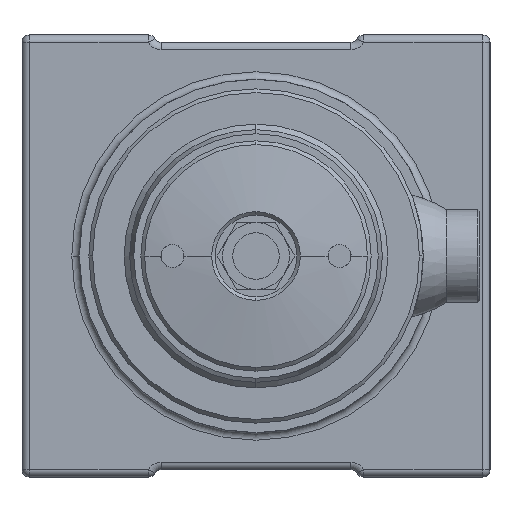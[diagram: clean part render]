
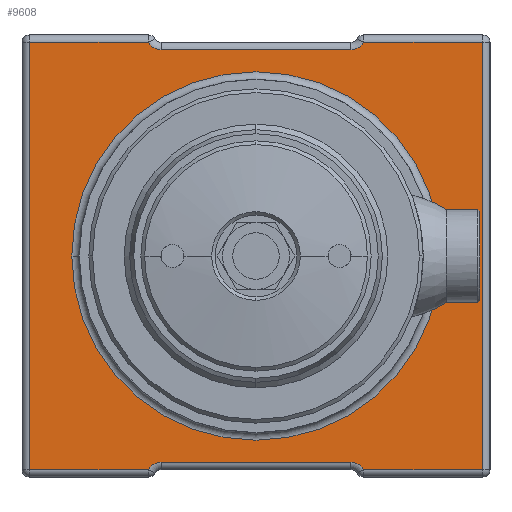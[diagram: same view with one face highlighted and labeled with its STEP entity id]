
A CAD part, front view. The second image highlights one B-rep face of the part: STEP entity #9608.
In plain terms, the highlighted planar face has unit normal (0, -1, 0).
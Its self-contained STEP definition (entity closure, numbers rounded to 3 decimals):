
#60 = CARTESIAN_POINT ( 'NONE',  ( 0., 7., 0. ) ) ;
#415 = CARTESIAN_POINT ( 'NONE',  ( -28.964, 7., -57.5 ) ) ;
#494 = CARTESIAN_POINT ( 'NONE',  ( -25.5, 7., 55.5 ) ) ;
#558 = FACE_OUTER_BOUND ( 'NONE', #9534, .T. ) ;
#583 = CARTESIAN_POINT ( 'NONE',  ( -60.998, 7., 57.5 ) ) ;
#628 = ORIENTED_EDGE ( 'NONE', *, *, #9024, .T. ) ;
#631 = CARTESIAN_POINT ( 'NONE',  ( 60.998, 7., -57.5 ) ) ;
#704 = CARTESIAN_POINT ( 'NONE',  ( 25.5, 7., -55.5 ) ) ;
#802 = DIRECTION ( 'NONE',  ( -1., 0., 0. ) ) ;
#858 = CARTESIAN_POINT ( 'NONE',  ( -25.5, 7., -55.5 ) ) ;
#919 = ORIENTED_EDGE ( 'NONE', *, *, #6103, .F. ) ;
#993 = VECTOR ( 'NONE', #9119, 1000. ) ;
#1026 = CARTESIAN_POINT ( 'NONE',  ( -60.998, 7., -59.5 ) ) ;
#1120 = DIRECTION ( 'NONE',  ( 1., 0., 0. ) ) ;
#1210 = CARTESIAN_POINT ( 'NONE',  ( -25.5, 7., -59.5 ) ) ;
#1213 = ORIENTED_EDGE ( 'NONE', *, *, #7703, .T. ) ;
#1406 = ORIENTED_EDGE ( 'NONE', *, *, #3082, .T. ) ;
#1407 = CARTESIAN_POINT ( 'NONE',  ( 28.964, 7., -57.5 ) ) ;
#1517 = AXIS2_PLACEMENT_3D ( 'NONE', #9405, #3678, #5323 ) ;
#1565 = AXIS2_PLACEMENT_3D ( 'NONE', #60, #9160, #5118 ) ;
#1613 = CARTESIAN_POINT ( 'NONE',  ( 27.5, 7., -55.5 ) ) ;
#1771 = VERTEX_POINT ( 'NONE', #2448 ) ;
#2022 = DIRECTION ( 'NONE',  ( -1., 0., 0. ) ) ;
#2034 = EDGE_CURVE ( 'NONE', #7558, #7566, #6778, .T. ) ;
#2191 = FACE_BOUND ( 'NONE', #6238, .T. ) ;
#2287 = CARTESIAN_POINT ( 'NONE',  ( 60.998, 7., 57.5 ) ) ;
#2390 = VECTOR ( 'NONE', #6663, 1000. ) ;
#2448 = CARTESIAN_POINT ( 'NONE',  ( -60.998, 7., -57.5 ) ) ;
#2603 = EDGE_CURVE ( 'NONE', #5098, #8198, #5337, .T. ) ;
#2613 = LINE ( 'NONE', #7544, #7036 ) ;
#2734 = LINE ( 'NONE', #5999, #993 ) ;
#2844 = LINE ( 'NONE', #6043, #4540 ) ;
#2917 = AXIS2_PLACEMENT_3D ( 'NONE', #8947, #10457, #6373 ) ;
#3082 = EDGE_CURVE ( 'NONE', #4164, #6595, #5747, .T. ) ;
#3474 = LINE ( 'NONE', #1026, #5392 ) ;
#3580 = EDGE_CURVE ( 'NONE', #4164, #8454, #6829, .T. ) ;
#3625 = VECTOR ( 'NONE', #2022, 1000. ) ;
#3678 = DIRECTION ( 'NONE',  ( 0., -1., 0. ) ) ;
#3741 = VERTEX_POINT ( 'NONE', #4948 ) ;
#3762 = EDGE_CURVE ( 'NONE', #9490, #10489, #8721, .T. ) ;
#3791 = CARTESIAN_POINT ( 'NONE',  ( 25.5, 7., 55.5 ) ) ;
#3898 = CARTESIAN_POINT ( 'NONE',  ( 28.964, 7., 57.5 ) ) ;
#4014 = CIRCLE ( 'NONE', #9142, 49.606 ) ;
#4038 = DIRECTION ( 'NONE',  ( 1., 0., 0. ) ) ;
#4164 = VERTEX_POINT ( 'NONE', #858 ) ;
#4212 = AXIS2_PLACEMENT_3D ( 'NONE', #4814, #8746, #10362 ) ;
#4540 = VECTOR ( 'NONE', #6967, 1000. ) ;
#4652 = DIRECTION ( 'NONE',  ( 0., -1., 0. ) ) ;
#4814 = CARTESIAN_POINT ( 'NONE',  ( 63.069, 7., 59.5 ) ) ;
#4948 = CARTESIAN_POINT ( 'NONE',  ( -28.964, 7., 57.5 ) ) ;
#5057 = ORIENTED_EDGE ( 'NONE', *, *, #3762, .F. ) ;
#5089 = EDGE_CURVE ( 'NONE', #7558, #6595, #9753, .T. ) ;
#5098 = VERTEX_POINT ( 'NONE', #6947 ) ;
#5109 = DIRECTION ( 'NONE',  ( -1., 0., 0. ) ) ;
#5118 = DIRECTION ( 'NONE',  ( -1., 0., 0. ) ) ;
#5323 = DIRECTION ( 'NONE',  ( -1., 0., 0. ) ) ;
#5337 = CIRCLE ( 'NONE', #1565, 49.606 ) ;
#5392 = VECTOR ( 'NONE', #6789, 1000. ) ;
#5747 = LINE ( 'NONE', #1613, #6474 ) ;
#5757 = EDGE_CURVE ( 'NONE', #3741, #8348, #2734, .T. ) ;
#5886 = DIRECTION ( 'NONE',  ( 0., 1., 0. ) ) ;
#5967 = CARTESIAN_POINT ( 'NONE',  ( 63.069, 7., -57.5 ) ) ;
#5999 = CARTESIAN_POINT ( 'NONE',  ( 63.069, 7., 57.5 ) ) ;
#6043 = CARTESIAN_POINT ( 'NONE',  ( -29.5, 7., -57.5 ) ) ;
#6103 = EDGE_CURVE ( 'NONE', #3741, #9957, #6155, .T. ) ;
#6155 = CIRCLE ( 'NONE', #2917, 4. ) ;
#6216 = EDGE_CURVE ( 'NONE', #9490, #9957, #2613, .T. ) ;
#6238 = EDGE_LOOP ( 'NONE', ( #8341, #8292 ) ) ;
#6265 = CARTESIAN_POINT ( 'NONE',  ( -49.606, 7., 0. ) ) ;
#6373 = DIRECTION ( 'NONE',  ( -1., 0., 0. ) ) ;
#6379 = PLANE ( 'NONE',  #4212 ) ;
#6474 = VECTOR ( 'NONE', #4038, 1000. ) ;
#6595 = VERTEX_POINT ( 'NONE', #704 ) ;
#6635 = CARTESIAN_POINT ( 'NONE',  ( 0., 7., 0. ) ) ;
#6663 = DIRECTION ( 'NONE',  ( 0., 0., 1. ) ) ;
#6778 = LINE ( 'NONE', #5967, #7378 ) ;
#6789 = DIRECTION ( 'NONE',  ( 0., 0., -1. ) ) ;
#6829 = CIRCLE ( 'NONE', #8185, 4. ) ;
#6947 = CARTESIAN_POINT ( 'NONE',  ( 49.606, 7., 0. ) ) ;
#6967 = DIRECTION ( 'NONE',  ( 1., 0., 0. ) ) ;
#6969 = ORIENTED_EDGE ( 'NONE', *, *, #5089, .F. ) ;
#7036 = VECTOR ( 'NONE', #5109, 1000. ) ;
#7161 = EDGE_CURVE ( 'NONE', #9105, #10489, #9383, .T. ) ;
#7378 = VECTOR ( 'NONE', #1120, 1000. ) ;
#7513 = ORIENTED_EDGE ( 'NONE', *, *, #9288, .T. ) ;
#7540 = ORIENTED_EDGE ( 'NONE', *, *, #7161, .T. ) ;
#7544 = CARTESIAN_POINT ( 'NONE',  ( -27.5, 7., 55.5 ) ) ;
#7558 = VERTEX_POINT ( 'NONE', #1407 ) ;
#7566 = VERTEX_POINT ( 'NONE', #631 ) ;
#7703 = EDGE_CURVE ( 'NONE', #7566, #9105, #8221, .T. ) ;
#7761 = DIRECTION ( 'NONE',  ( -1., 0., 0. ) ) ;
#8172 = CARTESIAN_POINT ( 'NONE',  ( 25.5, 7., 59.5 ) ) ;
#8185 = AXIS2_PLACEMENT_3D ( 'NONE', #1210, #4652, #7761 ) ;
#8198 = VERTEX_POINT ( 'NONE', #6265 ) ;
#8201 = AXIS2_PLACEMENT_3D ( 'NONE', #8172, #9037, #802 ) ;
#8221 = LINE ( 'NONE', #9081, #2390 ) ;
#8292 = ORIENTED_EDGE ( 'NONE', *, *, #2603, .T. ) ;
#8341 = ORIENTED_EDGE ( 'NONE', *, *, #10340, .T. ) ;
#8348 = VERTEX_POINT ( 'NONE', #583 ) ;
#8454 = VERTEX_POINT ( 'NONE', #415 ) ;
#8713 = ORIENTED_EDGE ( 'NONE', *, *, #2034, .T. ) ;
#8721 = CIRCLE ( 'NONE', #8201, 4. ) ;
#8746 = DIRECTION ( 'NONE',  ( 0., 1., 0. ) ) ;
#8947 = CARTESIAN_POINT ( 'NONE',  ( -25.5, 7., 59.5 ) ) ;
#9024 = EDGE_CURVE ( 'NONE', #1771, #8454, #2844, .T. ) ;
#9037 = DIRECTION ( 'NONE',  ( 0., -1., 0. ) ) ;
#9081 = CARTESIAN_POINT ( 'NONE',  ( 60.998, 7., 59.5 ) ) ;
#9105 = VERTEX_POINT ( 'NONE', #2287 ) ;
#9119 = DIRECTION ( 'NONE',  ( -1., 0., 0. ) ) ;
#9142 = AXIS2_PLACEMENT_3D ( 'NONE', #6635, #5886, #9918 ) ;
#9160 = DIRECTION ( 'NONE',  ( 0., 1., 0. ) ) ;
#9288 = EDGE_CURVE ( 'NONE', #8348, #1771, #3474, .T. ) ;
#9383 = LINE ( 'NONE', #10149, #3625 ) ;
#9405 = CARTESIAN_POINT ( 'NONE',  ( 25.5, 7., -59.5 ) ) ;
#9490 = VERTEX_POINT ( 'NONE', #3791 ) ;
#9534 = EDGE_LOOP ( 'NONE', ( #7513, #628, #10579, #1406, #6969, #8713, #1213, #7540, #5057, #9886, #919, #10032 ) ) ;
#9608 = ADVANCED_FACE ( 'NONE', ( #2191, #558 ), #6379, .F. ) ;
#9753 = CIRCLE ( 'NONE', #1517, 4. ) ;
#9886 = ORIENTED_EDGE ( 'NONE', *, *, #6216, .T. ) ;
#9918 = DIRECTION ( 'NONE',  ( -1., 0., 0. ) ) ;
#9957 = VERTEX_POINT ( 'NONE', #494 ) ;
#10032 = ORIENTED_EDGE ( 'NONE', *, *, #5757, .T. ) ;
#10149 = CARTESIAN_POINT ( 'NONE',  ( 63.069, 7., 57.5 ) ) ;
#10340 = EDGE_CURVE ( 'NONE', #8198, #5098, #4014, .T. ) ;
#10362 = DIRECTION ( 'NONE',  ( -1., 0., 0. ) ) ;
#10457 = DIRECTION ( 'NONE',  ( 0., -1., 0. ) ) ;
#10489 = VERTEX_POINT ( 'NONE', #3898 ) ;
#10579 = ORIENTED_EDGE ( 'NONE', *, *, #3580, .F. ) ;
